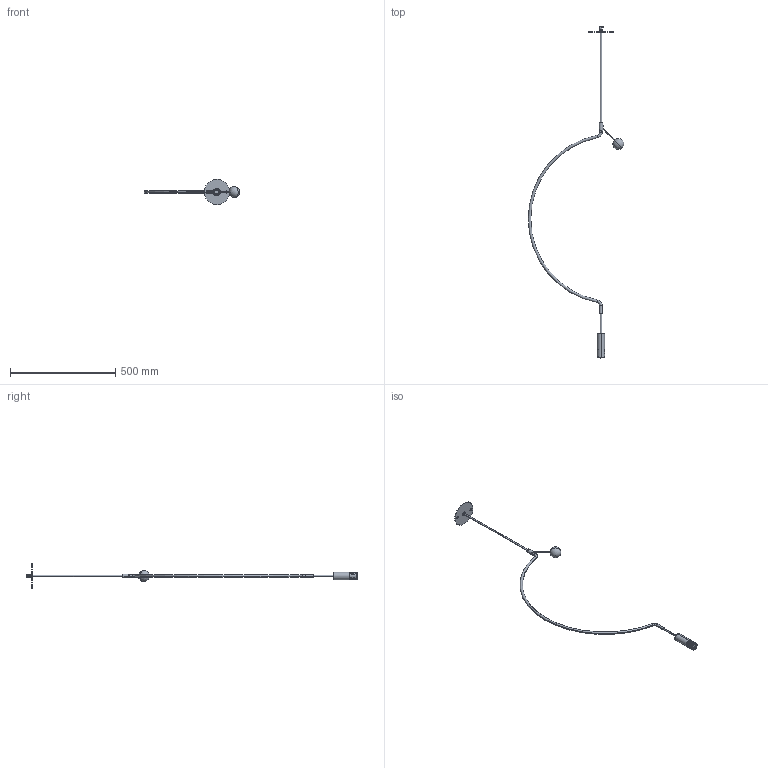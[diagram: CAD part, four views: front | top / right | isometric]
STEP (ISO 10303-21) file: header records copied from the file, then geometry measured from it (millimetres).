
FILE_DESCRIPTION (( 'STEP AP203' ), '1' );
FILE_NAME ('PENDENTE LIAISON INCASSO M-PER 3D.STEP', '2024-05-29T10:08:40', ( '' ), ( '' ), 'SwSTEP 2.0', 'SolidWorks 2024', '' );
FILE_SCHEMA (( 'CONFIG_CONTROL_DESIGN' ));
Length unit declared in the file: millimetre
Products named in the file (16): 1.0A.AXO01.LS02.F2; 1.0C.AXO01.LS01.13; 1.0C.AXO01.LS02.50; 1.0C.AXO01.LS01.06_rev_A; 1.0C.AXO01.LS01.12_rev_A; 1.0A.AXO01.LS01.S1; 1.0C.AXO01.LS01.08_Standard; 1.0C.AXO01.LS01.03_rev_A; Grani Acciaio_GRANO M4x0.7 L.4; 1.0A.AXO01.LS01.F1_rev_A; Rondelle Tornite Sacla_RONDELLA Ø25 F.C. M10X1 - AVS RO25X2; PENDENTE LIAISON INCASSO M-PER 3D; WSASS-000000038-00-PER 3D; 1.0C.AXO01.LS02.02; 1.0C.AXO01.LS02.01; 1.0C.AXO01.LS01.09_rev_B
Assembly tree (15 placements, depth 4):
  PENDENTE LIAISON INCASSO M-PER 3D
    1.0A.AXO01.LS02.F2
      Grani Acciaio_GRANO M4x0.7 L.4
      1.0C.AXO01.LS02.01
      1.0C.AXO01.LS02.50
      1.0A.AXO01.LS01.S1
        1.0C.AXO01.LS01.12_rev_A
        1.0C.AXO01.LS01.03_rev_A
      1.0A.AXO01.LS01.F1_rev_A
        Rondelle Tornite Sacla_RONDELLA Ø25 F.C. M10X1 - AVS RO25X2
        1.0C.AXO01.LS01.08_Standard
        1.0C.AXO01.LS01.09_rev_B
        1.0C.AXO01.LS01.06_rev_A
        1.0C.AXO01.LS01.13
    1.0C.AXO01.LS02.02
    WSASS-000000038-00-PER 3D
Bounding box: 454.78 x 1580.79 x 120 mm (x, y, z)
Volume: 268156.9 mm3; surface area: 198661.6 mm2
Topology: 21 solids, 21 shells, 482 faces, 1253 edges, 753 vertices
Faces by surface type: plane 163, cylinder 153, cone 76, bspline 70, torus 18, sphere 2
Entity records: 22242 total; most frequent: CARTESIAN_POINT 9679, ORIENTED_EDGE 2364, DIRECTION 2123, EDGE_CURVE 1182, AXIS2_PLACEMENT_3D 802, VERTEX_POINT 750, EDGE_LOOP 526, LINE 519
